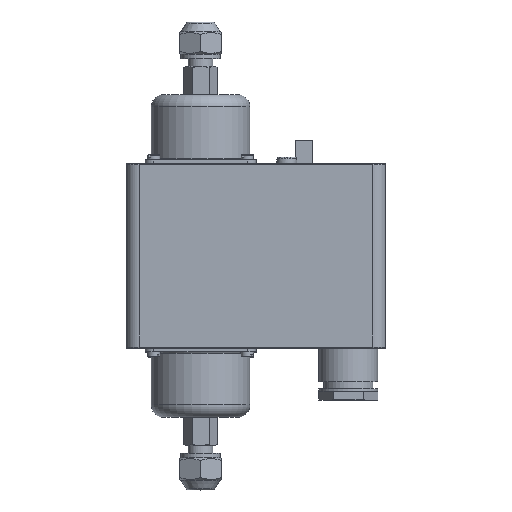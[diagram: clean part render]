
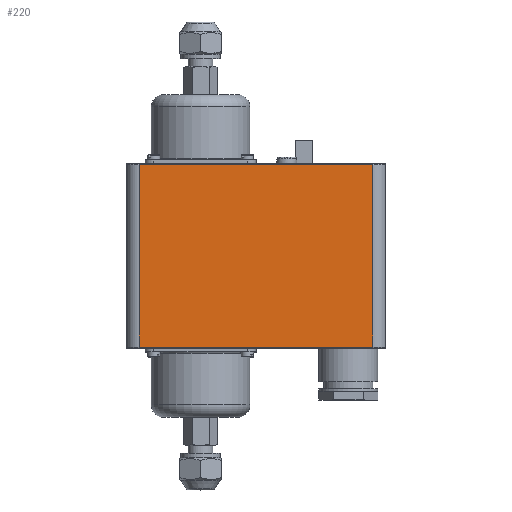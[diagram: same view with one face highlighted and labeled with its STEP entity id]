
A CAD part, top view. The second image highlights one B-rep face of the part: STEP entity #220.
In plain terms, the highlighted planar face has unit normal (0, 0, 1).
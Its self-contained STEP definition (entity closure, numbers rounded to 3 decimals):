
#220=ADVANCED_FACE('',(#1335),#1337,.T.);
#1335=FACE_OUTER_BOUND('',#1336,.T.);
#1336=EDGE_LOOP('',(#3099,#3100,#3101,#3102));
#1337=PLANE('',#1338);
#1338=AXIS2_PLACEMENT_3D('',#1339,#1340,#1341);
#1339=CARTESIAN_POINT('',(-25.,-37.5,26.));
#1340=DIRECTION('',(0.,0.,1.));
#1341=DIRECTION('',(1.,0.,0.));
#3099=ORIENTED_EDGE('',*,*,#4145,.F.);
#3100=ORIENTED_EDGE('',*,*,#4185,.F.);
#3101=ORIENTED_EDGE('',*,*,#4121,.T.);
#3102=ORIENTED_EDGE('',*,*,#4184,.T.);
#4121=EDGE_CURVE('',#5053,#5050,#5054,.T.);
#4145=EDGE_CURVE('',#5057,#5086,#5087,.T.);
#4184=EDGE_CURVE('',#5050,#5086,#5139,.T.);
#4185=EDGE_CURVE('',#5053,#5057,#5140,.T.);
#5050=VERTEX_POINT('',#7096);
#5053=VERTEX_POINT('',#7105);
#5054=LINE('',#7106,#7107);
#5057=VERTEX_POINT('',#7117);
#5086=VERTEX_POINT('',#7194);
#5087=LINE('',#7195,#7196);
#5139=LINE('',#7332,#7333);
#5140=LINE('',#7335,#7336);
#7096=CARTESIAN_POINT('',(70.,-37.,26.));
#7105=CARTESIAN_POINT('',(-25.,-37.,26.));
#7106=CARTESIAN_POINT('',(-25.,-37.,26.));
#7107=VECTOR('',#7108,1.);
#7108=DIRECTION('',(1.,0.,0.));
#7117=CARTESIAN_POINT('',(-25.,37.,26.));
#7194=CARTESIAN_POINT('',(70.,37.,26.));
#7195=CARTESIAN_POINT('',(-25.,37.,26.));
#7196=VECTOR('',#7197,1.);
#7197=DIRECTION('',(1.,0.,0.));
#7332=CARTESIAN_POINT('',(70.,-37.,26.));
#7333=VECTOR('',#7334,1.);
#7334=DIRECTION('',(0.,1.,0.));
#7335=CARTESIAN_POINT('',(-25.,-37.,26.));
#7336=VECTOR('',#7337,1.);
#7337=DIRECTION('',(0.,1.,0.));
